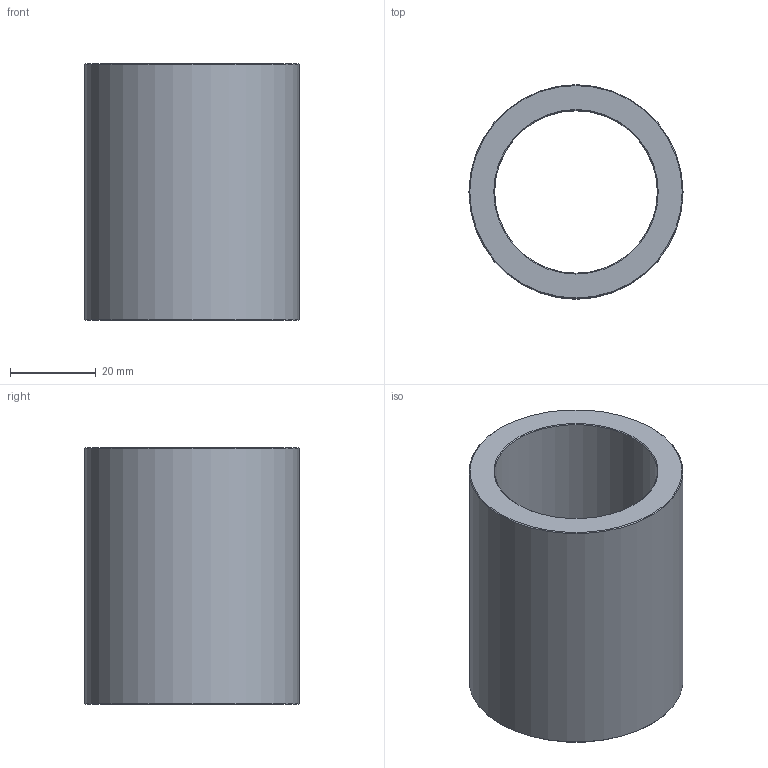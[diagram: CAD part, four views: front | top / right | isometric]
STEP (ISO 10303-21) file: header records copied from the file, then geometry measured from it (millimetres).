
FILE_DESCRIPTION(('STEP AP203'),'1');
FILE_NAME('C:/Users/Rodrigo/Desktop/GA6.038.060-1.step','2016-11-07T18:21:18',(' '),(' '),'Spatial InterOp 3D',' ',' ');
FILE_SCHEMA(('CONFIG_CONTROL_DESIGN'));
Length unit declared in the file: millimetre
Products named in the file (1): 1
Bounding box: 50 x 50 x 60 mm (x, y, z)
Volume: 49751.8 mm3; surface area: 18181.6 mm2
Topology: 1 solids, 1 shells, 8 faces, 14 edges, 8 vertices
Faces by surface type: cone 4, cylinder 2, plane 2
Full cylindrical faces by diameter (mm): 38 x1, 50 x1
Entity records: 212 total; most frequent: DIRECTION 34, CARTESIAN_POINT 25, AXIS2_PLACEMENT_3D 17, EDGE_LOOP 16, ORIENTED_EDGE 16, FACE_OUTER_BOUND 10, ADVANCED_FACE 8, EDGE_CURVE 8
